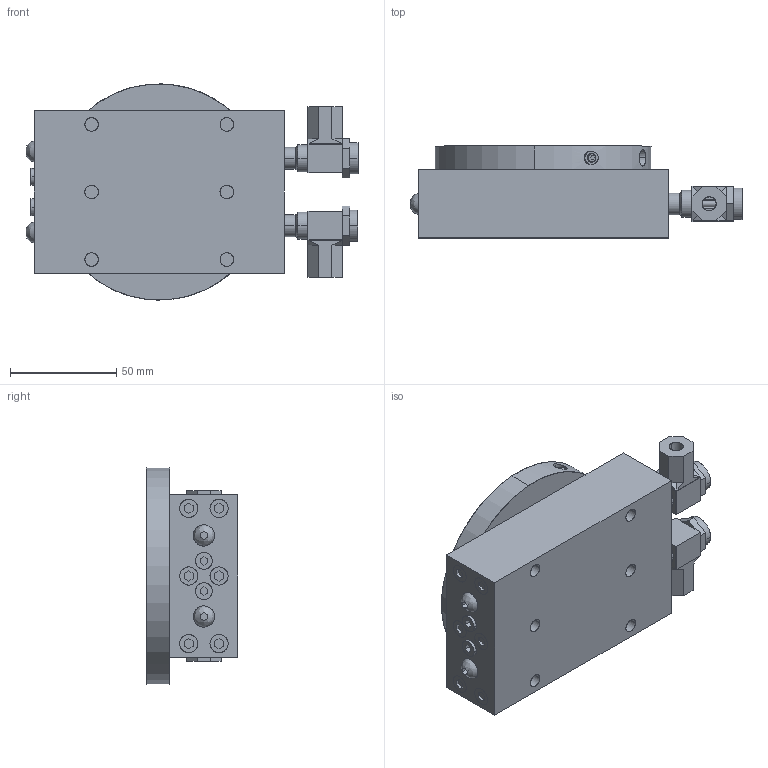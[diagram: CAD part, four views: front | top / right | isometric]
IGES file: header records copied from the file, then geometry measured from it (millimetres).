
Start section: SolidWorks IGES file using analytic representation for surfaces
Global section: file name: C:\Users\jmkuhnes\Pictures\My Transfers\AGR\AGR-3\AGR-3 60-90 in IN.IGS; native system: SolidWorks 2013; preprocessor: SolidWorks 2013; author: jmkuhnes; date: 141105.125426; units: inch
Bounding box: 156 x 43.18 x 101.58 mm (x, y, z)
Surface area: 74530.6 mm2 (no closed solid volume)
Topology: 0 solids, 0 shells, 465 faces, 7338 edges, 7338 vertices
Faces by surface type: bspline 296, revolution 169
